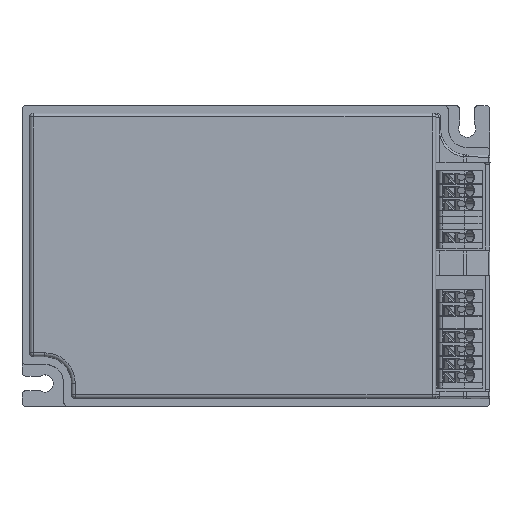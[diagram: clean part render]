
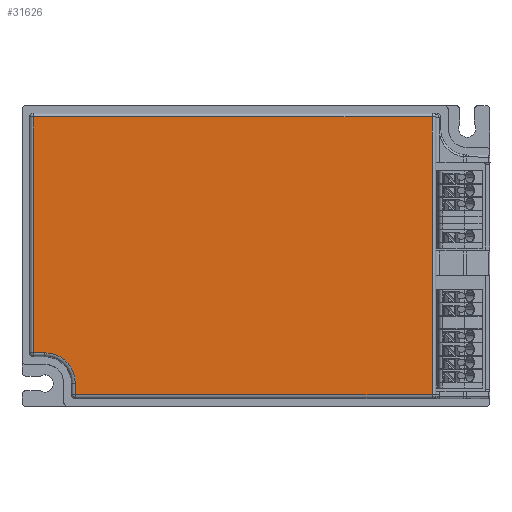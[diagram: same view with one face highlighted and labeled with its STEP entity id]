
A CAD part, top view. The second image highlights one B-rep face of the part: STEP entity #31626.
In plain terms, the highlighted planar face has unit normal (0, 0, 1).
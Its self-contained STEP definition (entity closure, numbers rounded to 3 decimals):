
#1509 = VERTEX_POINT ( 'NONE', #70855 ) ;
#1763 = EDGE_LOOP ( 'NONE', ( #61415, #60458, #87294, #56519, #36452, #15049, #59886 ) ) ;
#2583 = DIRECTION ( 'NONE',  ( -1., 0., 0. ) ) ;
#2845 = EDGE_CURVE ( 'NONE', #1509, #13697, #54524, .T. ) ;
#3355 = EDGE_CURVE ( 'NONE', #79694, #49034, #71325, .T. ) ;
#9165 = AXIS2_PLACEMENT_3D ( 'NONE', #80901, #40194, #87697 ) ;
#10198 = CARTESIAN_POINT ( 'NONE',  ( -47.5, 0., 31. ) ) ;
#13697 = VERTEX_POINT ( 'NONE', #42535 ) ;
#14600 = LINE ( 'NONE', #28887, #50797 ) ;
#15049 = ORIENTED_EDGE ( 'NONE', *, *, #42874, .T. ) ;
#16788 = DIRECTION ( 'NONE',  ( 0., -1., 0. ) ) ;
#17785 = LINE ( 'NONE', #10198, #27278 ) ;
#18376 = VECTOR ( 'NONE', #64833, 1000. ) ;
#20063 = CARTESIAN_POINT ( 'NONE',  ( -58.5, 0., 31. ) ) ;
#21229 = EDGE_CURVE ( 'NONE', #49034, #1509, #72325, .T. ) ;
#21486 = PLANE ( 'NONE',  #74376 ) ;
#26727 = VECTOR ( 'NONE', #60240, 1000. ) ;
#27030 = CARTESIAN_POINT ( 'NONE',  ( -47.5, -33.5, 31. ) ) ;
#27278 = VECTOR ( 'NONE', #16788, 1000. ) ;
#28887 = CARTESIAN_POINT ( 'NONE',  ( 0., -36.5, 31. ) ) ;
#28989 = EDGE_CURVE ( 'NONE', #52915, #44698, #14600, .T. ) ;
#31626 = ADVANCED_FACE ( 'NONE', ( #51444 ), #21486, .T. ) ;
#33366 = CARTESIAN_POINT ( 'NONE',  ( -47.5, -36.5, 31. ) ) ;
#35180 = DIRECTION ( 'NONE',  ( 1., 0., 0. ) ) ;
#36452 = ORIENTED_EDGE ( 'NONE', *, *, #2845, .T. ) ;
#40194 = DIRECTION ( 'NONE',  ( 0., 0., -1. ) ) ;
#41142 = CIRCLE ( 'NONE', #9165, 8. ) ;
#42535 = CARTESIAN_POINT ( 'NONE',  ( -55.5, -25.5, 31. ) ) ;
#42874 = EDGE_CURVE ( 'NONE', #13697, #87930, #41142, .T. ) ;
#44459 = CARTESIAN_POINT ( 'NONE',  ( -58.5, 36.5, 31. ) ) ;
#44698 = VERTEX_POINT ( 'NONE', #82100 ) ;
#49034 = VERTEX_POINT ( 'NONE', #44459 ) ;
#50176 = CARTESIAN_POINT ( 'NONE',  ( 0., 36.5, 31. ) ) ;
#50797 = VECTOR ( 'NONE', #69357, 1000. ) ;
#51444 = FACE_OUTER_BOUND ( 'NONE', #1763, .T. ) ;
#52723 = EDGE_CURVE ( 'NONE', #87930, #52915, #17785, .T. ) ;
#52915 = VERTEX_POINT ( 'NONE', #33366 ) ;
#53395 = CARTESIAN_POINT ( 'NONE',  ( 46.3, 0., 31. ) ) ;
#54524 = LINE ( 'NONE', #58036, #18376 ) ;
#56519 = ORIENTED_EDGE ( 'NONE', *, *, #21229, .T. ) ;
#58036 = CARTESIAN_POINT ( 'NONE',  ( 0., -25.5, 31. ) ) ;
#59886 = ORIENTED_EDGE ( 'NONE', *, *, #52723, .T. ) ;
#60240 = DIRECTION ( 'NONE',  ( 0., 1., 0. ) ) ;
#60458 = ORIENTED_EDGE ( 'NONE', *, *, #72789, .T. ) ;
#60825 = DIRECTION ( 'NONE',  ( 0., -1., 0. ) ) ;
#61415 = ORIENTED_EDGE ( 'NONE', *, *, #28989, .T. ) ;
#64833 = DIRECTION ( 'NONE',  ( 1., 0., 0. ) ) ;
#69044 = CARTESIAN_POINT ( 'NONE',  ( 0., 0., 31. ) ) ;
#69174 = VECTOR ( 'NONE', #2583, 1000. ) ;
#69357 = DIRECTION ( 'NONE',  ( 1., 0., 0. ) ) ;
#70013 = CARTESIAN_POINT ( 'NONE',  ( 46.3, 36.5, 31. ) ) ;
#70199 = VECTOR ( 'NONE', #60825, 1000. ) ;
#70855 = CARTESIAN_POINT ( 'NONE',  ( -58.5, -25.5, 31. ) ) ;
#71325 = LINE ( 'NONE', #50176, #69174 ) ;
#72325 = LINE ( 'NONE', #20063, #70199 ) ;
#72789 = EDGE_CURVE ( 'NONE', #44698, #79694, #80963, .T. ) ;
#74376 = AXIS2_PLACEMENT_3D ( 'NONE', #69044, #75890, #35180 ) ;
#75890 = DIRECTION ( 'NONE',  ( 0., 0., 1. ) ) ;
#79694 = VERTEX_POINT ( 'NONE', #70013 ) ;
#80901 = CARTESIAN_POINT ( 'NONE',  ( -55.5, -33.5, 31. ) ) ;
#80963 = LINE ( 'NONE', #53395, #26727 ) ;
#82100 = CARTESIAN_POINT ( 'NONE',  ( 46.3, -36.5, 31. ) ) ;
#87294 = ORIENTED_EDGE ( 'NONE', *, *, #3355, .T. ) ;
#87697 = DIRECTION ( 'NONE',  ( 1., 0., 0. ) ) ;
#87930 = VERTEX_POINT ( 'NONE', #27030 ) ;
